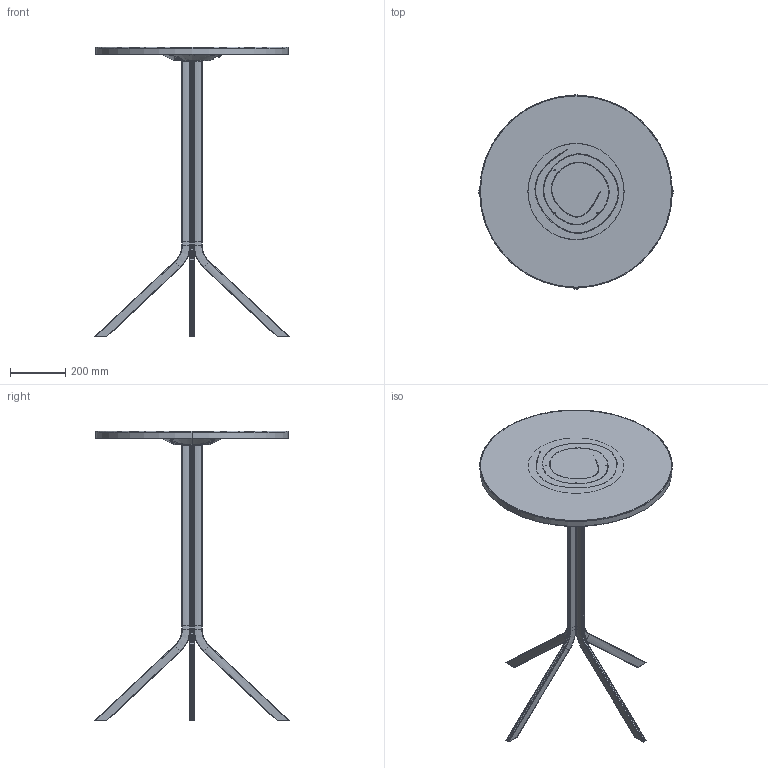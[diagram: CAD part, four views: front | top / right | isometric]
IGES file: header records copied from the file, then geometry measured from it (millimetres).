
Start section: 3D InterOp IGES (v. 2023 1.0.1), Spatial Corp. Copyright (c) 1999-2020.
Global section: file name: OKTV20FXX + OKTO10FXX.igs; native system: Spatial Corp.; preprocessor: 3D InterOp GENERIC/IGES 3.0; author: Noname; organization: Noname; date: 20240701.142924; units: millimetre
Bounding box: 708.28 x 708.28 x 1051.61 mm (x, y, z)
Surface area: 2133149.3 mm2 (no closed solid volume)
Topology: 0 solids, 0 shells, 3943 faces, 21146 edges, 20908 vertices
Faces by surface type: revolution 1620, extrusion 1322, bspline 988, offset 13
